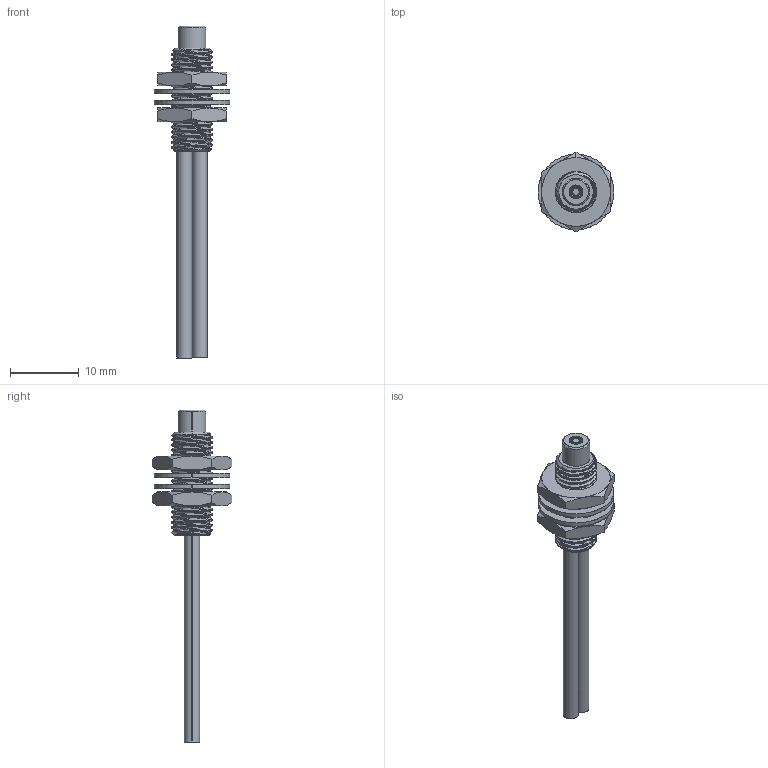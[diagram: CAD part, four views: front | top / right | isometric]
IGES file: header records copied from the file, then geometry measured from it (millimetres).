
Start section: SolidWorks IGES file using analytic representation for surfaces
Bounding box: 11 x 11.55 x 48.2 mm (x, y, z)
Surface area: 1657.9 mm2 (no closed solid volume)
Topology: 0 solids, 0 shells, 249 faces, 4082 edges, 4078 vertices
Faces by surface type: revolution 143, bspline 106
